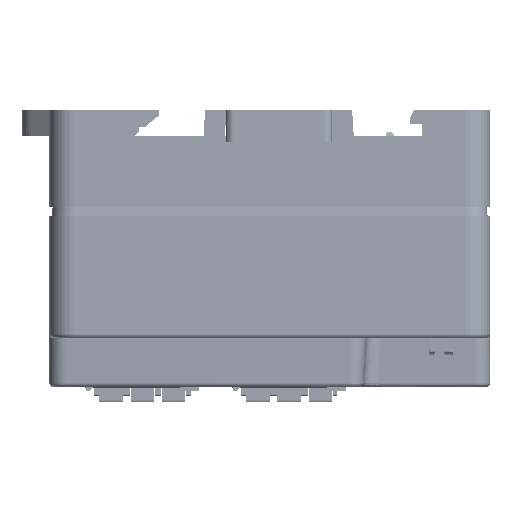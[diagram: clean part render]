
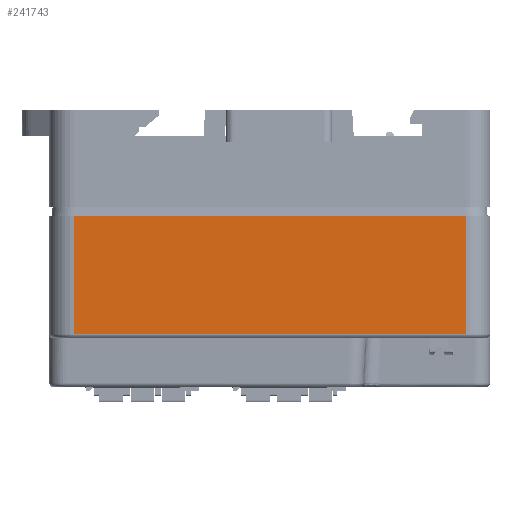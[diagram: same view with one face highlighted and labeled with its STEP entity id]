
A CAD part, left-side view. The second image highlights one B-rep face of the part: STEP entity #241743.
In plain terms, the highlighted planar face has unit normal (-1, 0, 0).
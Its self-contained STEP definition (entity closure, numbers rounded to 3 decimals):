
#24862=DIRECTION('',(0.,1.,0.));
#24863=VECTOR('',#24862,48.);
#24864=CARTESIAN_POINT('',(-80.,-24.,-6.));
#24865=LINE('',#24864,#24863);
#24893=DIRECTION('',(0.,0.,-1.));
#24894=VECTOR('',#24893,14.5);
#24895=CARTESIAN_POINT('',(-80.,-24.,8.5));
#24896=LINE('',#24895,#24894);
#24897=DIRECTION('',(0.,0.,1.));
#24898=VECTOR('',#24897,14.5);
#24899=CARTESIAN_POINT('',(-80.,24.,-6.));
#24900=LINE('',#24899,#24898);
#24914=DIRECTION('',(0.,-1.,0.));
#24915=VECTOR('',#24914,48.);
#24916=CARTESIAN_POINT('',(-80.,24.,8.5));
#24917=LINE('',#24916,#24915);
#194863=CARTESIAN_POINT('',(-80.,24.,-6.));
#194865=VERTEX_POINT('',#194863);
#206774=CARTESIAN_POINT('',(-80.,-24.,8.5));
#206775=CARTESIAN_POINT('',(-80.,-24.,-6.));
#206776=VERTEX_POINT('',#206774);
#206777=VERTEX_POINT('',#206775);
#210013=CARTESIAN_POINT('',(-80.,24.,8.5));
#210014=VERTEX_POINT('',#210013);
#241730=CARTESIAN_POINT('',(-80.,27.,-12.5));
#241731=DIRECTION('',(-1.,0.,0.));
#241732=DIRECTION('',(0.,0.,1.));
#241733=AXIS2_PLACEMENT_3D('',#241730,#241731,#241732);
#241734=PLANE('',#241733);
#241735=ORIENTED_EDGE('',*,*,#241723,.T.);
#241736=ORIENTED_EDGE('',*,*,#241685,.T.);
#241738=ORIENTED_EDGE('',*,*,#241737,.T.);
#241740=ORIENTED_EDGE('',*,*,#241739,.T.);
#241741=EDGE_LOOP('',(#241735,#241736,#241738,#241740));
#241742=FACE_OUTER_BOUND('',#241741,.F.);
#241743=ADVANCED_FACE('',(#241742),#241734,.T.);
#241685=EDGE_CURVE('',#206777,#194865,#24865,.T.);
#241723=EDGE_CURVE('',#206776,#206777,#24896,.T.);
#241737=EDGE_CURVE('',#194865,#210014,#24900,.T.);
#241739=EDGE_CURVE('',#210014,#206776,#24917,.T.);
